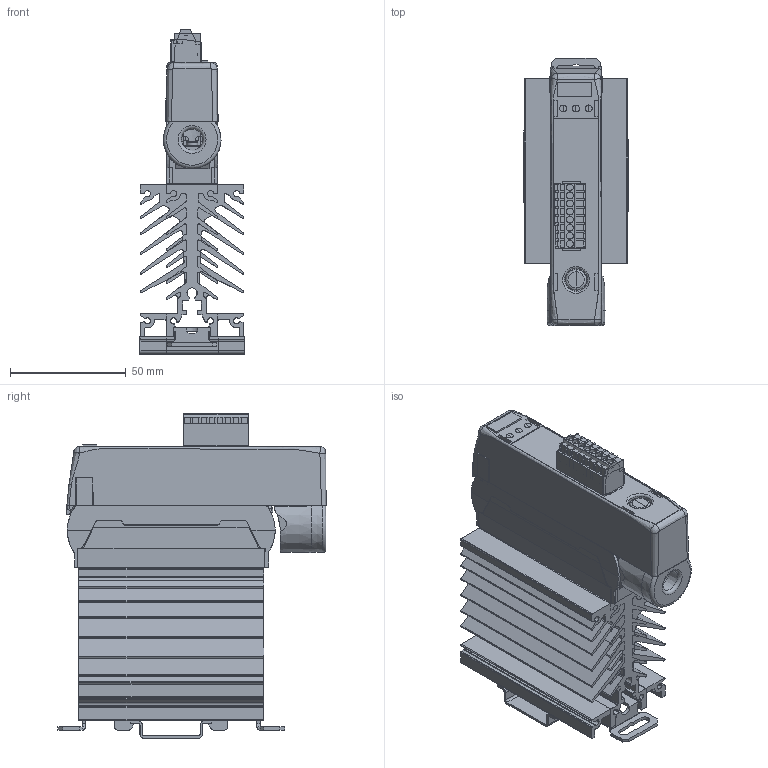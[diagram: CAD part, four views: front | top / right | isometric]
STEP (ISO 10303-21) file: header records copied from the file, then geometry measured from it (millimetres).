
FILE_DESCRIPTION((''),'2;1');
FILE_NAME('F:\Vault_local\Designs\Stock\3D pour clients\2D3D 600\2D3D 613 A.stp','2013-07-26T10:26:37',('Georges THOLLOT ','Tl : +33 (0)4 77 53 90 27','gthollot@celduc.com'),('Celduc r e l a i s','5, rue Ampre, BP 30004','42290 SORBIERS - France','Fax. : +33 (0)4 77 53 85 51','N siret 353 310 519 00015','ISO 9001 N QUAL/1993/1106b','www.celduc.com'),'Autodesk Inventor 2010','Autodesk Inventor 2010','');
FILE_SCHEMA(('CONFIG_CONTROL_DESIGN'));
Length unit declared in the file: millimetre
Products named in the file (10): ECOM sur SUL; WF311100; NF E 25-514 Z4 - 160 HV; ISO 4762 M4 x 20; SU (2 lids removed); ECOM; WF151200; BL_3_5_8_90_SN_OR_1638610000_2_14a; BL_3_5_8_SN_SW_1615700000; BLIDCB_3_5_8_SN_SW_1770730000
Assembly tree (11 placements, depth 2):
  ECOM sur SUL
    WF311100
    NF E 25-514 Z4 - 160 HV  x2
    ISO 4762 M4 x 20  x2
    SU (2 lids removed)
    ECOM
    WF151200
    BL_3_5_8_90_SN_OR_1638610000_2_14a
    BL_3_5_8_SN_SW_1615700000
    BLIDCB_3_5_8_SN_SW_1770730000
Bounding box: 45.03 x 116.03 x 140.36 mm (x, y, z)
Volume: 284926.2 mm3; surface area: 162521.4 mm2
Topology: 21 solids, 23 shells, 3525 faces, 9677 edges, 6256 vertices
Faces by surface type: plane 2458, cylinder 624, bspline 333, cone 89, torus 15, sphere 6
Full cylindrical faces by diameter (mm): 1.95 x2, 2.1 x2, 2.5 x8, 2.9 x8, 3 x9, 4 x2, 4.3 x2, 4.5 x1, 4.567 x2, 5 x2, 5.5 x1, 7 x2, 8 x2, 8.662 x2, 9 x1
Entity records: 120896 total; most frequent: CARTESIAN_POINT 30592, ORIENTED_EDGE 19004, DIRECTION 17095, EDGE_CURVE 9502, VECTOR 7425, LINE 7425, VERTEX_POINT 6203, AXIS2_PLACEMENT_3D 4835
